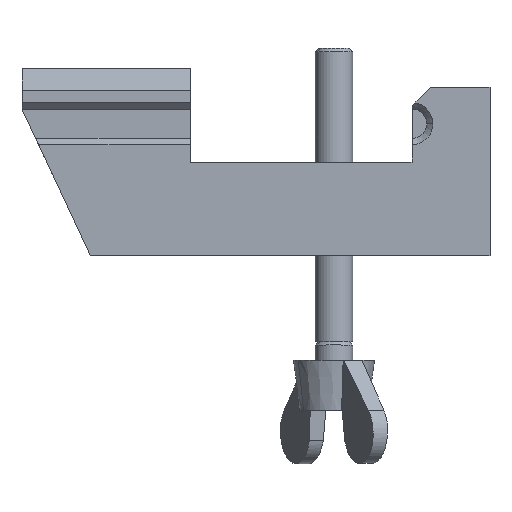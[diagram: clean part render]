
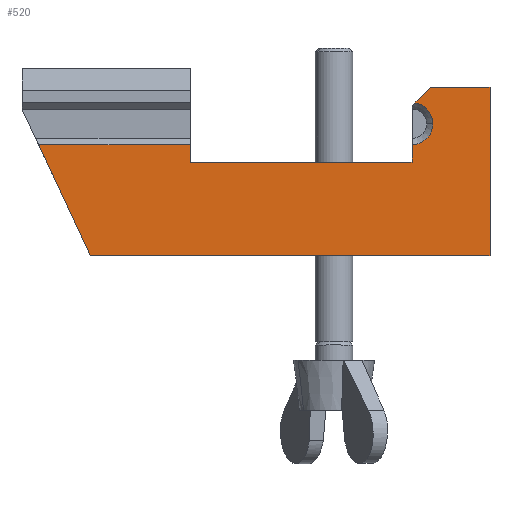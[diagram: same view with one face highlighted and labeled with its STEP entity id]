
A CAD part, top view. The second image highlights one B-rep face of the part: STEP entity #520.
In plain terms, the highlighted planar face has unit normal (0, 0, 1).
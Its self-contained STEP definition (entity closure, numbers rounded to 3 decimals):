
#10 = ORIENTED_EDGE ( 'NONE', *, *, #1697, .T. ) ;
#30 = DIRECTION ( 'NONE',  ( 0., 1., 0. ) ) ;
#64 = EDGE_CURVE ( 'NONE', #148, #120, #675, .T. ) ;
#75 = EDGE_CURVE ( 'NONE', #778, #2040, #2047, .T. ) ;
#112 = EDGE_CURVE ( 'NONE', #626, #148, #484, .T. ) ;
#117 = CARTESIAN_POINT ( 'NONE',  ( 0., 0., 7.5 ) ) ;
#120 = VERTEX_POINT ( 'NONE', #2311 ) ;
#134 = DIRECTION ( 'NONE',  ( 0., 0., 1. ) ) ;
#148 = VERTEX_POINT ( 'NONE', #1464 ) ;
#201 = VECTOR ( 'NONE', #1082, 1000. ) ;
#224 = DIRECTION ( 'NONE',  ( 0., 0., -1. ) ) ;
#239 = ORIENTED_EDGE ( 'NONE', *, *, #319, .T. ) ;
#260 = LINE ( 'NONE', #727, #2207 ) ;
#266 = CARTESIAN_POINT ( 'NONE',  ( -12.033, 24.467, 7.5 ) ) ;
#283 = DIRECTION ( 'NONE',  ( 0., 0., -1. ) ) ;
#313 = VECTOR ( 'NONE', #2012, 1000. ) ;
#319 = EDGE_CURVE ( 'NONE', #1193, #2215, #1372, .T. ) ;
#473 = ORIENTED_EDGE ( 'NONE', *, *, #112, .T. ) ;
#484 = LINE ( 'NONE', #845, #1929 ) ;
#490 = CARTESIAN_POINT ( 'NONE',  ( -12.5, 15., 7.5 ) ) ;
#508 = CARTESIAN_POINT ( 'NONE',  ( -12.5, 17.8, 7.5 ) ) ;
#518 = LINE ( 'NONE', #1683, #1577 ) ;
#520 = ADVANCED_FACE ( 'NONE', ( #965 ), #733, .T. ) ;
#538 = ORIENTED_EDGE ( 'NONE', *, *, #2282, .T. ) ;
#544 = VECTOR ( 'NONE', #976, 1000. ) ;
#572 = CARTESIAN_POINT ( 'NONE',  ( -12.5, 15., 7.5 ) ) ;
#626 = VERTEX_POINT ( 'NONE', #117 ) ;
#653 = EDGE_CURVE ( 'NONE', #2304, #626, #1727, .T. ) ;
#662 = AXIS2_PLACEMENT_3D ( 'NONE', #1604, #283, #1414 ) ;
#675 = LINE ( 'NONE', #1370, #544 ) ;
#706 = DIRECTION ( 'NONE',  ( -1., 0., 0. ) ) ;
#727 = CARTESIAN_POINT ( 'NONE',  ( -72.808, 17.8, 7.5 ) ) ;
#733 = PLANE ( 'NONE',  #876 ) ;
#778 = VERTEX_POINT ( 'NONE', #1490 ) ;
#843 = ORIENTED_EDGE ( 'NONE', *, *, #1663, .T. ) ;
#845 = CARTESIAN_POINT ( 'NONE',  ( 0., 0., 7.5 ) ) ;
#876 = AXIS2_PLACEMENT_3D ( 'NONE', #1665, #134, #2029 ) ;
#938 = DIRECTION ( 'NONE',  ( 0.423, -0.906, 0. ) ) ;
#965 = FACE_OUTER_BOUND ( 'NONE', #1079, .T. ) ;
#976 = DIRECTION ( 'NONE',  ( -1., 0., 0. ) ) ;
#1034 = ORIENTED_EDGE ( 'NONE', *, *, #64, .T. ) ;
#1044 = DIRECTION ( 'NONE',  ( 0., 1., 0. ) ) ;
#1051 = CARTESIAN_POINT ( 'NONE',  ( -64.042, 0., 7.5 ) ) ;
#1062 = CARTESIAN_POINT ( 'NONE',  ( -9.15, 21.15, 7.5 ) ) ;
#1079 = EDGE_LOOP ( 'NONE', ( #10, #1204, #239, #2135, #2316, #2122, #843, #538, #1395, #473, #1034 ) ) ;
#1082 = DIRECTION ( 'NONE',  ( -0.707, -0.707, 0. ) ) ;
#1117 = AXIS2_PLACEMENT_3D ( 'NONE', #1741, #224, #2308 ) ;
#1193 = VERTEX_POINT ( 'NONE', #1062 ) ;
#1204 = ORIENTED_EDGE ( 'NONE', *, *, #2166, .T. ) ;
#1225 = EDGE_CURVE ( 'NONE', #2342, #778, #2263, .T. ) ;
#1370 = CARTESIAN_POINT ( 'NONE',  ( 0., 27., 7.5 ) ) ;
#1372 = CIRCLE ( 'NONE', #662, 3.35 ) ;
#1394 = LINE ( 'NONE', #2421, #1839 ) ;
#1395 = ORIENTED_EDGE ( 'NONE', *, *, #653, .T. ) ;
#1414 = DIRECTION ( 'NONE',  ( 1., 0., 0. ) ) ;
#1464 = CARTESIAN_POINT ( 'NONE',  ( 0., 27., 7.5 ) ) ;
#1490 = CARTESIAN_POINT ( 'NONE',  ( -48., 15., 7.5 ) ) ;
#1516 = CARTESIAN_POINT ( 'NONE',  ( -48., 17.8, 7.5 ) ) ;
#1577 = VECTOR ( 'NONE', #938, 1000. ) ;
#1604 = CARTESIAN_POINT ( 'NONE',  ( -12.5, 21.15, 7.5 ) ) ;
#1663 = EDGE_CURVE ( 'NONE', #2040, #2306, #260, .T. ) ;
#1665 = CARTESIAN_POINT ( 'NONE',  ( 0., 0., 7.5 ) ) ;
#1672 = DIRECTION ( 'NONE',  ( 0., -1., 0. ) ) ;
#1683 = CARTESIAN_POINT ( 'NONE',  ( -75., 23.5, 7.5 ) ) ;
#1697 = EDGE_CURVE ( 'NONE', #120, #1885, #2264, .T. ) ;
#1727 = LINE ( 'NONE', #1823, #313 ) ;
#1741 = CARTESIAN_POINT ( 'NONE',  ( -12.5, 21.15, 7.5 ) ) ;
#1769 = VECTOR ( 'NONE', #1796, 1000. ) ;
#1796 = DIRECTION ( 'NONE',  ( -1., 0., 0. ) ) ;
#1823 = CARTESIAN_POINT ( 'NONE',  ( -64.042, 0., 7.5 ) ) ;
#1839 = VECTOR ( 'NONE', #1672, 1000. ) ;
#1885 = VERTEX_POINT ( 'NONE', #266 ) ;
#1929 = VECTOR ( 'NONE', #30, 1000. ) ;
#1952 = CARTESIAN_POINT ( 'NONE',  ( -48., 15., 7.5 ) ) ;
#1984 = VECTOR ( 'NONE', #1044, 1000. ) ;
#2009 = CARTESIAN_POINT ( 'NONE',  ( -18.25, 18.25, 7.5 ) ) ;
#2012 = DIRECTION ( 'NONE',  ( 1., 0., 0. ) ) ;
#2029 = DIRECTION ( 'NONE',  ( 1., 0., 0. ) ) ;
#2040 = VERTEX_POINT ( 'NONE', #1516 ) ;
#2047 = LINE ( 'NONE', #1952, #1984 ) ;
#2122 = ORIENTED_EDGE ( 'NONE', *, *, #75, .T. ) ;
#2135 = ORIENTED_EDGE ( 'NONE', *, *, #2331, .T. ) ;
#2166 = EDGE_CURVE ( 'NONE', #1885, #1193, #2250, .T. ) ;
#2207 = VECTOR ( 'NONE', #706, 1000. ) ;
#2215 = VERTEX_POINT ( 'NONE', #508 ) ;
#2237 = CARTESIAN_POINT ( 'NONE',  ( -72.342, 17.8, 7.5 ) ) ;
#2250 = CIRCLE ( 'NONE', #1117, 3.35 ) ;
#2263 = LINE ( 'NONE', #490, #1769 ) ;
#2264 = LINE ( 'NONE', #2009, #201 ) ;
#2282 = EDGE_CURVE ( 'NONE', #2306, #2304, #518, .T. ) ;
#2304 = VERTEX_POINT ( 'NONE', #1051 ) ;
#2306 = VERTEX_POINT ( 'NONE', #2237 ) ;
#2308 = DIRECTION ( 'NONE',  ( 1., 0., 0. ) ) ;
#2311 = CARTESIAN_POINT ( 'NONE',  ( -9.5, 27., 7.5 ) ) ;
#2316 = ORIENTED_EDGE ( 'NONE', *, *, #1225, .T. ) ;
#2331 = EDGE_CURVE ( 'NONE', #2215, #2342, #1394, .T. ) ;
#2342 = VERTEX_POINT ( 'NONE', #572 ) ;
#2421 = CARTESIAN_POINT ( 'NONE',  ( -12.5, 27., 7.5 ) ) ;
